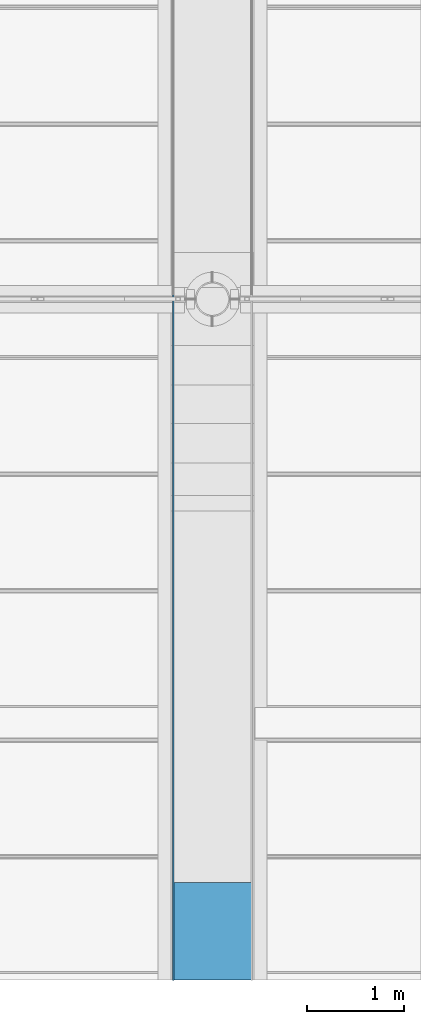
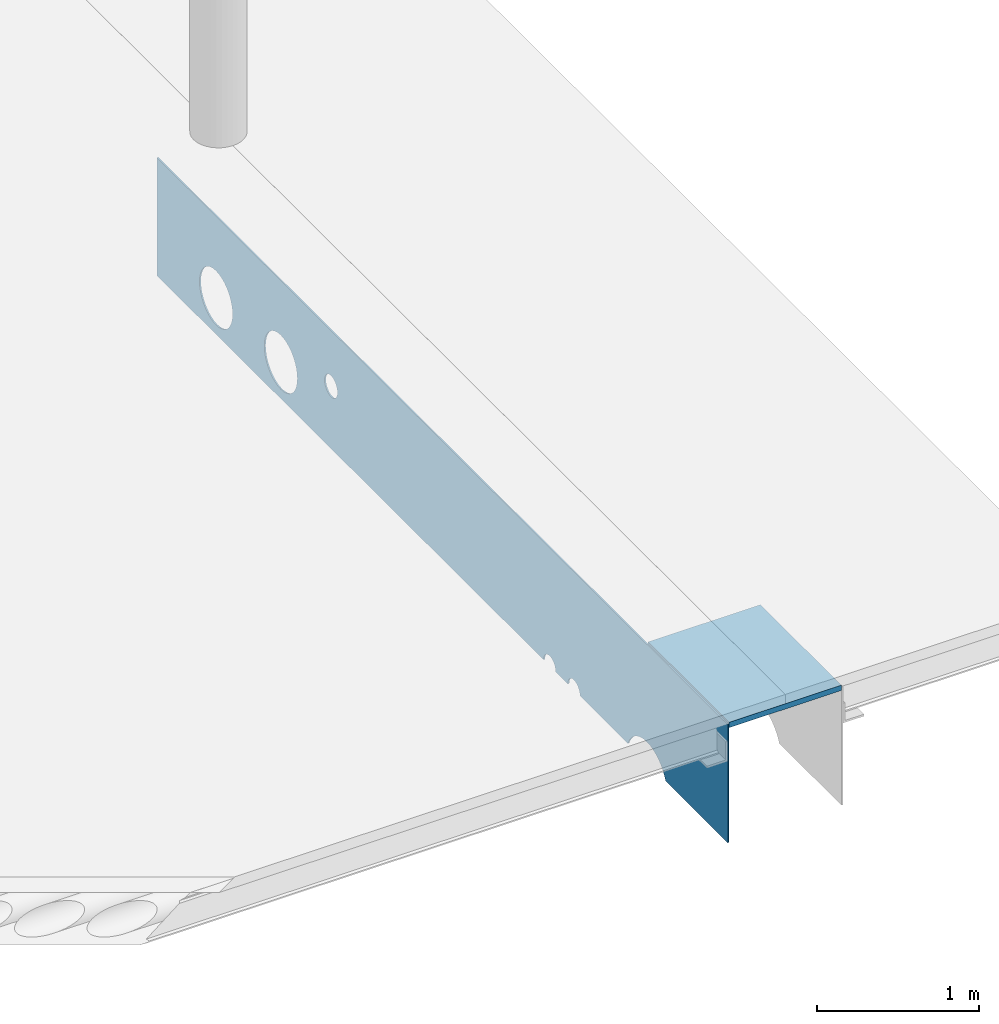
# One storey, part 6 of 21: 2 beams.
"""IFC2X3 building model written with IfcOpenShell, lengths in millimetres."""

import ifcopenshell
import ifcopenshell.guid

model = None  # the IFC model being written
_history = None  # IfcOwnerHistory: only IFC2X3 demands one
_inside = {}  # id of a spatial element -> (the spatial element, [elements in it])
_under = {}  # id of a project, library or spatial element -> (it, [spatial elements below it])
_declared = {}  # id of a project -> (the project, [libraries it declares])
_typed = {}  # id of a type object -> (the type object, [elements of that type])
_made_of = {}  # id of a material, layer set ... -> (it, [elements and type objects made of it])


def new_model(schema):
    """Start an empty IFC model of exactly this schema.

    Asked for "IFC4X3", IfcOpenShell would pick the latest addendum, in which some entities
    have other attributes; the version numbers below select the first issue.
    IFC2X3 requires an IfcOwnerHistory on every rooted entity: one is made here for all.
    """
    global model, _history
    if schema == "IFC4X3":
        model = ifcopenshell.file(schema_version=(4, 3, 0, 0))
    else:
        model = ifcopenshell.file(schema=schema)
    _inside.clear()
    _under.clear()
    _declared.clear()
    _typed.clear()
    _made_of.clear()
    _history = None
    if model.schema == "IFC2X3":
        org = make("IfcOrganization", Name="unknown")
        user = make(
            "IfcPersonAndOrganization",
            ThePerson=make("IfcPerson", FamilyName="unknown"),
            TheOrganization=org,
        )
        app = make(
            "IfcApplication",
            ApplicationDeveloper=org,
            Version="unknown",
            ApplicationFullName="unknown",
            ApplicationIdentifier="unknown",
        )
        _history = make(
            "IfcOwnerHistory",
            OwningUser=user,
            OwningApplication=app,
            ChangeAction="ADDED",
            CreationDate=0,
        )
    return model


def make(cls, **values):
    """One entity of the class cls with the attributes given. An attribute that is None is left unset."""
    return model.create_entity(
        cls, **{name: value for name, value in values.items() if value is not None}
    )


def entity(cls, *values):
    """Any entity or typed value of the class cls, its attributes in the order of the schema. None: left unset."""
    e = model.create_entity(cls)
    for i, value in enumerate(values):
        if value is not None:
            e[i] = value
    return e


def rooted(cls, **values):
    """An entity with a GlobalId (a new one), such as an element, a storey or a relation."""
    return make(cls, GlobalId=ifcopenshell.guid.new(), OwnerHistory=_history, **values)


def si_unit(unit_type, name, prefix=None):
    """IfcSIUnit, for example si_unit("LENGTHUNIT", "METRE", prefix="MILLI")."""
    return make("IfcSIUnit", UnitType=unit_type, Prefix=prefix, Name=name)


def converted_unit(unit_type, name, factor, base, dimensions=None, offset=None):
    """IfcConversionBasedUnit, such as the inch: factor (a typed value) times the base unit."""
    return make(
        "IfcConversionBasedUnit"
        if offset is None
        else "IfcConversionBasedUnitWithOffset",
        ConversionOffset=offset,
        Dimensions=None
        if dimensions is None
        else entity("IfcDimensionalExponents", *dimensions),
        UnitType=unit_type,
        Name=name,
        ConversionFactor=make(
            "IfcMeasureWithUnit", ValueComponent=factor, UnitComponent=base
        ),
    )


def derived_unit(unit_type, elements):
    """IfcDerivedUnit: a product of units, each with its exponent."""
    return make(
        "IfcDerivedUnit",
        Elements=[
            make("IfcDerivedUnitElement", Unit=unit, Exponent=power)
            for unit, power in elements
        ],
        UnitType=unit_type,
    )


def assignment(units):
    """IfcUnitAssignment: the units of a project."""
    return None if units is None else make("IfcUnitAssignment", Units=units)


def point(xyz):
    """IfcCartesianPoint."""
    return None if xyz is None else make("IfcCartesianPoint", Coordinates=xyz)


def direction(xyz):
    """IfcDirection."""
    return None if xyz is None else make("IfcDirection", DirectionRatios=xyz)


def frame(location, z_axis=None, x_axis=None):
    """IfcAxis2Placement3D, a coordinate frame: its origin and axes. An axis left out is left unset."""
    return make(
        "IfcAxis2Placement3D",
        Location=point(location),
        Axis=direction(z_axis),
        RefDirection=direction(x_axis),
    )


def origin_with_axes():
    """The frame at (0, 0, 0) with the z axis (0, 0, 1) and the x axis (1, 0, 0) written out."""
    return frame((0.0, 0.0, 0.0), z_axis=(0.0, 0.0, 1.0), x_axis=(1.0, 0.0, 0.0))


def place(relative_to, where):
    """IfcLocalPlacement: puts the frame where relative to a parent placement (None: the world)."""
    return make(
        "IfcLocalPlacement", PlacementRelTo=relative_to, RelativePlacement=where
    )


def context(
    kind, dimensions, precision=None, world=None, true_north=None, identifier=None
):
    """IfcGeometricRepresentationContext, for example the 3D "Model" context."""
    return make(
        "IfcGeometricRepresentationContext",
        ContextIdentifier=identifier,
        ContextType=kind,
        CoordinateSpaceDimension=dimensions,
        Precision=precision,
        WorldCoordinateSystem=world,
        TrueNorth=true_north,
    )


def subcontext(parent, identifier, kind, view, scale=None):
    """IfcGeometricRepresentationSubContext, for example "Body" below "Model"."""
    return make(
        "IfcGeometricRepresentationSubContext",
        ContextIdentifier=identifier,
        ContextType=kind,
        ParentContext=parent,
        TargetScale=scale,
        TargetView=view,
    )


def project(units=None, contexts=None):
    """IfcProject with its units and contexts."""
    return rooted(
        "IfcProject",
        Name="project",
        RepresentationContexts=contexts,
        UnitsInContext=assignment(units),
    )


def spatial(cls, under=None, at=None, **own):
    """A site, building, storey or space (cls), placed at a placement, below another one or the project."""
    s = rooted(cls, ObjectPlacement=at, **own)
    if under is not None:
        _under.setdefault(under.id(), (under, []))[1].append(s)
    return s


def faces_of(points, faces, orient=None, outer=None):
    """IfcFace entities. A face is a list of loops; a loop is a list of indices into points, from 0.

    orient and outer hold one flag for each loop. By default every Orientation is true, the
    first loop of a face is its IfcFaceOuterBound and the others are IfcFaceBound.
    """
    made = []
    for i, loops in enumerate(faces):
        bounds = []
        for j, loop in enumerate(loops):
            is_outer = j == 0 if outer is None else outer[i][j]
            bounds.append(
                make(
                    "IfcFaceOuterBound" if is_outer else "IfcFaceBound",
                    Bound=make("IfcPolyLoop", Polygon=[points[k] for k in loop]),
                    Orientation=True if orient is None else orient[i][j],
                )
            )
        made.append(make("IfcFace", Bounds=bounds))
    return made


def faceted_brep(points, faces, orient=None, outer=None, voids=None):
    """IfcFacetedBrep: a solid bounded by flat faces; with voids (closed shells), ...WithVoids."""
    shared = [point(p) for p in points]
    hull = make("IfcClosedShell", CfsFaces=faces_of(shared, faces, orient, outer))
    if voids is None:
        return make("IfcFacetedBrep", Outer=hull)
    return make(
        "IfcFacetedBrepWithVoids",
        Outer=hull,
        Voids=[
            make(cls, CfsFaces=faces_of(shared, fs, o, b)) for cls, fs, o, b in voids
        ],
    )


def shape(context_of_items, identifier, shape_type, items):
    """IfcShapeRepresentation: the items that make up one representation, for example the "Body"."""
    return make(
        "IfcShapeRepresentation",
        ContextOfItems=context_of_items,
        RepresentationIdentifier=identifier,
        RepresentationType=shape_type,
        Items=items,
    )


def made_of(thing, what):
    """Note that an element or type object is made of a material, layer set ...; save() writes the relation."""
    if what is not None:
        _made_of.setdefault(what.id(), (what, []))[1].append(thing)
    return thing


def type_object(cls, material=None, **own):
    """A type object (cls), such as IfcWallType, which elements share."""
    return made_of(rooted(cls, **own), material)


def element(
    cls,
    number,
    at=None,
    inside=None,
    cuts=None,
    type_object=None,
    material=None,
    context=None,
    identifier="Body",
    shape_type=None,
    held_by="IfcProductDefinitionShape",
    body=None,
    shapes=None,
    **own,
):
    """One element of the class cls, such as IfcWall. Its Tag is "e" and its number.

    at: its placement. inside: the storey or other place that contains it. cuts: it is an
    opening in that element (IfcRelVoidsElement). A single representation is given by context,
    identifier, shape_type and body (its items); several are given by shapes. held_by: the class
    of the entity that holds the representations. save() writes the other relations.
    """
    e = rooted(cls, Tag="e%d" % number, ObjectPlacement=at, **own)
    if body is not None:
        shapes = [shape(context, identifier, shape_type, body)]
    if shapes is not None:
        e.Representation = make(held_by, Representations=shapes)
    if inside is not None:
        _inside.setdefault(inside.id(), (inside, []))[1].append(e)
    if cuts is not None:
        rooted(
            "IfcRelVoidsElement", RelatingBuildingElement=cuts, RelatedOpeningElement=e
        )
    if type_object is not None:
        _typed.setdefault(type_object.id(), (type_object, []))[1].append(e)
    return made_of(e, material)


def aggregate(whole, parts):
    """IfcRelAggregates: a whole, such as a stair, and the parts it consists of."""
    return rooted("IfcRelAggregates", RelatingObject=whole, RelatedObjects=parts)


def save(model, path):
    """Write the relations noted so far, then the file.

    IfcRelAggregates (storeys below a building ...), IfcRelContainedInSpatialStructure (elements
    in a storey), IfcRelDefinesByType, IfcRelAssociatesMaterial and IfcRelDeclares: one each for
    every whole, place, type object, material and project.
    """
    for whole, parts in _under.values():
        aggregate(whole, parts)
    for where, things in _inside.values():
        rooted(
            "IfcRelContainedInSpatialStructure",
            RelatedElements=things,
            RelatingStructure=where,
        )
    for kind, things in _typed.values():
        rooted("IfcRelDefinesByType", RelatedObjects=things, RelatingType=kind)
    for what, things in _made_of.values():
        rooted("IfcRelAssociatesMaterial", RelatedObjects=things, RelatingMaterial=what)
    for by, libraries in _declared.values():
        rooted("IfcRelDeclares", RelatingContext=by, RelatedDefinitions=libraries)
    model.write(path)


model = new_model("IFC2X3")

# Units and contexts
model_context = context("Model", 3, precision=0.01, world=frame((0.0, 4.29681676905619e-09, 0.0)), true_north=direction((4.01073788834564e-13, 1.0)))
plan_context = context("Plan", 3, precision=0.01, world=frame((0.0, 4.29681676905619e-09, 0.0)), true_north=direction((4.01073788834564e-13, 1.0)))
body_context = subcontext(model_context, "Body", "Model", "MODEL_VIEW")
ifc_project = project(units=[converted_unit("PLANEANGLEUNIT", "DEGREE", entity("IfcPositiveLengthMeasure", 0.0174532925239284), si_unit("PLANEANGLEUNIT", "RADIAN"), dimensions=[0, 0, 0, 0, 0, 0, 0]), si_unit("AREAUNIT", "SQUARE_METRE"), si_unit("LENGTHUNIT", "METRE", prefix="MILLI"), si_unit("MASSUNIT", "GRAM", prefix="KILO"), si_unit("POWERUNIT", "WATT"), si_unit("PRESSUREUNIT", "PASCAL", prefix="KILO"), si_unit("FORCEUNIT", "NEWTON", prefix="KILO"), si_unit("ELECTRICVOLTAGEUNIT", "VOLT"), si_unit("ELECTRICCURRENTUNIT", "AMPERE"), si_unit("THERMODYNAMICTEMPERATUREUNIT", "DEGREE_CELSIUS"), si_unit("TIMEUNIT", "SECOND"), si_unit("VOLUMEUNIT", "CUBIC_METRE"), derived_unit("LINEARVELOCITYUNIT", [(si_unit("LENGTHUNIT", "METRE"), 1), (si_unit("TIMEUNIT", "SECOND"), -1)]), derived_unit("VOLUMETRICFLOWRATEUNIT", [(si_unit("VOLUMEUNIT", "CUBIC_METRE"), 1), (si_unit("TIMEUNIT", "SECOND"), -1)]), derived_unit("THERMALTRANSMITTANCEUNIT", [(si_unit("POWERUNIT", "WATT"), 1), (si_unit("THERMODYNAMICTEMPERATUREUNIT", "KELVIN"), -1), (si_unit("AREAUNIT", "SQUARE_METRE"), -1)]), derived_unit("SOUNDPRESSUREUNIT", [(si_unit("PRESSUREUNIT", "PASCAL"), 1)])], contexts=[model_context, plan_context])

# Site, building, storey
site_placement = place(None, frame((0.0, -4.29681676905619e-09, 0.0), z_axis=(0.0, 0.0, 1.0), x_axis=(1.0, 0.0, 0.0)))
site = spatial("IfcSite", under=ifc_project, at=site_placement, Name="Gardermoen", CompositionType="ELEMENT")
building_placement = place(site_placement, frame((0.0, 4.29681676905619e-09, 0.0), z_axis=(0.0, 0.0, 1.0), x_axis=(1.0, 0.0, 0.0)))
building = spatial("IfcBuilding", under=site, at=building_placement, Name="TS", CompositionType="ELEMENT")
storey_placement = place(building_placement, origin_with_axes())
storey = spatial("IfcBuildingStorey", under=building, at=storey_placement, Name="F", CompositionType="ELEMENT", Elevation=0.0)

# Beams
beam_type_1 = type_object("IfcBeamType", Name="800*40", PredefinedType="NOTDEFINED")
beam_1_placement = place(storey_placement, frame((727000.0, 432150.0, 210785.0), z_axis=(-1.0, 0.0, 0.0), x_axis=(0.0, 1.0, 0.0)))
element("IfcBeam", 1, at=beam_1_placement, inside=storey, type_object=beam_type_1, Name="STÅLBJELKE", ObjectType="800*40", context=body_context, shape_type="Brep", body=[
    faceted_brep([(2349.00924500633, -20.0, -400.0), (2349.00924500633, -20.0, 400.0), (3350.00000000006, -20.0, 400.0), (3350.00000000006, -20.0, -400.0), (2349.00924500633, 20.0, 400.0), (3350.00000000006, 20.0, 400.0), (2349.00924500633, 20.0, -400.0), (3350.00000000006, 20.0, -400.0)], [[[0, 1, 2, 3]], [[1, 4, 5, 2]], [[6, 0, 3, 7]], [[5, 7, 3, 2]], [[4, 6, 7, 5]], [[6, 4, 1, 0]]], orient=[[False], [False], [False], [False], [False], [False]]),
])
beam_type_2 = type_object("IfcBeamType", Name="1470*10", PredefinedType="NOTDEFINED")
beam_2_placement = place(storey_placement, frame((726595.0, 434100.0, 210055.0), z_axis=(0.0, 0.0, 1.0), x_axis=(0.0, 1.0, 0.0)))
element("IfcBeam", 2, at=beam_2_placement, inside=storey, type_object=beam_type_2, Name="STÅLBJELKE", ObjectType="1470*10", context=body_context, shape_type="Brep", body=[
    faceted_brep([(5369.28203230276, -5.0, 275.0), (5369.28203230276, 5.0, 275.0), (5377.2740661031, 5.0, 294.294476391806), (5377.2740661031, -5.0, 294.294476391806), (5380.0, 5.0, 315.0), (5380.0, -5.0, 315.0), (5377.2740661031, 5.0, 335.705523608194), (5377.2740661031, -5.0, 335.705523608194), (5369.28203230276, 5.0, 355.0), (5369.28203230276, -5.0, 355.0), (5356.5685424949, 5.0, 371.568542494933), (5356.5685424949, -5.0, 371.568542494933), (5340.0, 5.0, 384.282032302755), (5340.0, -5.0, 384.282032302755), (5320.70552360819, 5.0, 392.274066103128), (5320.70552360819, -5.0, 392.274066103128), (5300.0, 5.0, 395.0), (5300.0, -5.0, 395.0), (5279.29447639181, 5.0, 392.274066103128), (5279.29447639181, -5.0, 392.274066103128), (5260.0, 5.0, 384.282032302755), (5260.0, -5.0, 384.282032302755), (5243.4314575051, 5.0, 371.568542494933), (5243.4314575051, -5.0, 371.568542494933), (5230.71796769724, 5.0, 355.0), (5230.71796769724, -5.0, 355.0), (5222.7259338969, 5.0, 335.705523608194), (5222.7259338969, -5.0, 335.705523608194), (5220.0, 5.0, 315.0), (5220.0, -5.0, 315.0), (5222.7259338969, 5.0, 294.294476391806), (5222.7259338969, -5.0, 294.294476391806), (5230.71796769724, 5.0, 275.0), (5230.71796769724, -5.0, 275.0), (5243.4314575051, 5.0, 258.431457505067), (5243.4314575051, -5.0, 258.431457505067), (5260.0, 5.0, 245.717967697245), (5260.0, -5.0, 245.717967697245), (5279.29447639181, 5.0, 237.725933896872), (5279.29447639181, -5.0, 237.725933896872), (5300.0, 5.0, 235.0), (5300.0, -5.0, 235.0), (5320.70552360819, 5.0, 237.725933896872), (5320.70552360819, -5.0, 237.725933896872), (5340.0, 5.0, 245.717967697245), (5340.0, -5.0, 245.717967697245), (5356.5685424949, 5.0, 258.431457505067), (5356.5685424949, -5.0, 258.431457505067), (399.007988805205, -5.0, 735.0), (399.007988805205, 5.0, 735.0), (7450.0, 5.0, 735.0), (7450.0, -5.0, 735.0), (7450.0, 5.0, -155.0), (7450.0, -5.0, -155.0), (1166.26219191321, 5.0, -155.0), (1166.26219191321, -5.0, -155.0), (1172.79333633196, -5.0, -139.23242256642), (1172.79333633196, 5.0, -139.23242256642), (1193.70066643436, -5.0, -105.114760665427), (1193.70066643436, 5.0, -105.114760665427), (1219.68777079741, -5.0, -74.6877707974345), (1219.68777079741, 5.0, -74.6877707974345), (1250.1147606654, -5.0, -48.7006664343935), (1250.1147606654, 5.0, -48.7006664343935), (1284.23242256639, -5.0, -27.7933363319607), (1284.23242256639, 5.0, -27.7933363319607), (1321.20066643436, -5.0, -12.4805883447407), (1321.20066643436, 5.0, -12.4805883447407), (1360.10921141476, -5.0, -3.13947314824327), (1360.10921141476, 5.0, -3.13947314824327), (1400.0, -5.0, 0.0), (1400.0, 5.0, 0.0), (1439.89078858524, -5.0, -3.13947314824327), (1439.89078858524, 5.0, -3.13947314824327), (1478.79933356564, -5.0, -12.4805883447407), (1478.79933356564, 5.0, -12.4805883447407), (1515.76757743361, -5.0, -27.7933363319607), (1515.76757743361, 5.0, -27.7933363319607), (1549.8852393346, -5.0, -48.7006664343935), (1549.8852393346, 5.0, -48.7006664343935), (1580.31222920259, -5.0, -74.6877707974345), (1580.31222920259, 5.0, -74.6877707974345), (1606.29933356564, -5.0, -105.114760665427), (1606.29933356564, 5.0, -105.114760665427), (1627.20666366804, -5.0, -139.23242256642), (1627.20666366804, 5.0, -139.23242256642), (1633.73780808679, -5.0, -155.0), (1633.73780808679, 5.0, -155.0), (2375.0, -5.0, -155.0), (2375.0, 5.0, -155.0), (2372.44443697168, 5.0, -135.588571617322), (2372.44443697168, -5.0, -135.588571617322), (2227.55556302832, -5.0, -135.588571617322), (2227.55556302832, 5.0, -135.588571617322), (2225.0, 5.0, -155.0), (2225.0, -5.0, -155.0), (2235.04809471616, -5.0, -117.5), (2235.04809471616, 5.0, -117.5), (2246.966991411, -5.0, -101.966991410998), (2246.966991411, 5.0, -101.966991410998), (2262.5, -5.0, -90.0480947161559), (2262.5, 5.0, -90.0480947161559), (2280.58857161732, -5.0, -82.5555630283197), (2280.58857161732, 5.0, -82.5555630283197), (2300.0, -5.0, -80.0), (2300.0, 5.0, -80.0), (2319.41142838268, -5.0, -82.5555630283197), (2319.41142838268, 5.0, -82.5555630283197), (2337.5, -5.0, -90.0480947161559), (2337.5, 5.0, -90.0480947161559), (2353.033008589, -5.0, -101.966991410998), (2353.033008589, 5.0, -101.966991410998), (2364.95190528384, -5.0, -117.5), (2364.95190528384, 5.0, -117.5), (2675.0, -5.0, -155.0), (2675.0, 5.0, -155.0), (2672.44443697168, 5.0, -135.588571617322), (2672.44443697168, -5.0, -135.588571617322), (2527.55556302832, -5.0, -135.588571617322), (2527.55556302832, 5.0, -135.588571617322), (2525.0, 5.0, -155.0), (2525.0, -5.0, -155.0), (2535.04809471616, -5.0, -117.5), (2535.04809471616, 5.0, -117.5), (2546.966991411, -5.0, -101.966991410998), (2546.966991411, 5.0, -101.966991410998), (2562.5, -5.0, -90.0480947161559), (2562.5, 5.0, -90.0480947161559), (2580.58857161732, -5.0, -82.5555630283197), (2580.58857161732, 5.0, -82.5555630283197), (2600.0, -5.0, -80.0), (2600.0, 5.0, -80.0), (2619.41142838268, -5.0, -82.5555630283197), (2619.41142838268, 5.0, -82.5555630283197), (2637.5, -5.0, -90.0480947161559), (2637.5, 5.0, -90.0480947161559), (2653.033008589, -5.0, -101.966991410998), (2653.033008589, 5.0, -101.966991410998), (2664.95190528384, -5.0, -117.5), (2664.95190528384, 5.0, -117.5), (6124.0, -5.0, 120.0), (6124.0, 5.0, 120.0), (6120.90078161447, 5.0, 155.424228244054), (6120.90078161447, -5.0, 155.424228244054), (6120.90078161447, -5.0, 84.5757717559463), (6120.90078161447, 5.0, 84.5757717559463), (6111.69729464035, -5.0, 50.2278907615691), (6111.69729464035, 5.0, 50.2278907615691), (6096.66918237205, -5.0, 18.0), (6096.66918237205, 5.0, 18.0), (6076.27306639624, -5.0, -11.1286723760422), (6076.27306639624, 5.0, -11.1286723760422), (6051.12867237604, -5.0, -36.273066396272), (6051.12867237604, 5.0, -36.273066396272), (6022.0, -5.0, -56.6691823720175), (6022.0, 5.0, -56.6691823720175), (5989.77210923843, -5.0, -71.6972946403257), (5989.77210923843, 5.0, -71.6972946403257), (5955.42422824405, -5.0, -80.9007816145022), (5955.42422824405, 5.0, -80.9007816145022), (5920.0, -5.0, -84.0), (5920.0, 5.0, -84.0), (5884.57577175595, -5.0, -80.9007816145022), (5884.57577175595, 5.0, -80.9007816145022), (5850.22789076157, -5.0, -71.6972946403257), (5850.22789076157, 5.0, -71.6972946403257), (5818.0, -5.0, -56.6691823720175), (5818.0, 5.0, -56.6691823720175), (5788.87132762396, -5.0, -36.273066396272), (5788.87132762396, 5.0, -36.273066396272), (5763.72693360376, -5.0, -11.1286723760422), (5763.72693360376, 5.0, -11.1286723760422), (5743.33081762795, -5.0, 18.0), (5743.33081762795, 5.0, 18.0), (5728.30270535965, -5.0, 50.2278907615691), (5728.30270535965, 5.0, 50.2278907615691), (5719.09921838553, -5.0, 84.5757717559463), (5719.09921838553, 5.0, 84.5757717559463), (5716.0, -5.0, 120.0), (5716.0, 5.0, 120.0), (5719.09921838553, -5.0, 155.424228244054), (5719.09921838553, 5.0, 155.424228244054), (5728.30270535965, -5.0, 189.772109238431), (5728.30270535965, 5.0, 189.772109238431), (5743.33081762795, -5.0, 222.0), (5743.33081762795, 5.0, 222.0), (5763.72693360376, -5.0, 251.128672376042), (5763.72693360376, 5.0, 251.128672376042), (5788.87132762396, -5.0, 276.273066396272), (5788.87132762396, 5.0, 276.273066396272), (5818.0, -5.0, 296.669182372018), (5818.0, 5.0, 296.669182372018), (5850.22789076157, -5.0, 311.697294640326), (5850.22789076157, 5.0, 311.697294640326), (5884.57577175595, -5.0, 320.900781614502), (5884.57577175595, 5.0, 320.900781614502), (5920.0, -5.0, 324.0), (5920.0, 5.0, 324.0), (5955.42422824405, -5.0, 320.900781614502), (5955.42422824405, 5.0, 320.900781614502), (5989.77210923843, -5.0, 311.697294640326), (5989.77210923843, 5.0, 311.697294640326), (6022.0, -5.0, 296.669182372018), (6022.0, 5.0, 296.669182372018), (6051.12867237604, -5.0, 276.273066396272), (6051.12867237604, 5.0, 276.273066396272), (6076.27306639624, -5.0, 251.128672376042), (6076.27306639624, 5.0, 251.128672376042), (6096.66918237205, -5.0, 222.0), (6096.66918237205, 5.0, 222.0), (6111.69729464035, -5.0, 189.772109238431), (6111.69729464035, 5.0, 189.772109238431), (399.007988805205, -5.0, -155.0), (6920.90078161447, -5.0, 84.5757717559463), (6924.0, -5.0, 120.0), (6920.90078161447, -5.0, 155.424228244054), (6911.69729464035, -5.0, 189.772109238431), (6896.66918237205, -5.0, 222.0), (6876.27306639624, -5.0, 251.128672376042), (6851.12867237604, -5.0, 276.273066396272), (6822.0, -5.0, 296.669182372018), (6789.77210923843, -5.0, 311.697294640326), (6755.42422824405, -5.0, 320.900781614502), (6720.0, -5.0, 324.0), (6684.57577175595, -5.0, 320.900781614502), (6650.22789076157, -5.0, 311.697294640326), (6618.0, -5.0, 296.669182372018), (6588.87132762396, -5.0, 276.273066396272), (6563.72693360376, -5.0, 251.128672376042), (6543.33081762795, -5.0, 222.0), (6528.30270535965, -5.0, 189.772109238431), (6519.09921838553, -5.0, 155.424228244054), (6516.0, -5.0, 120.0), (6519.09921838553, -5.0, 84.5757717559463), (6528.30270535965, -5.0, 50.2278907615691), (6543.33081762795, -5.0, 18.0), (6563.72693360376, -5.0, -11.1286723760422), (6588.87132762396, -5.0, -36.273066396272), (6618.0, -5.0, -56.6691823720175), (6650.22789076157, -5.0, -71.6972946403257), (6684.57577175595, -5.0, -80.9007816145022), (6720.0, -5.0, -84.0), (6755.42422824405, -5.0, -80.9007816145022), (6789.77210923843, -5.0, -71.6972946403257), (6822.0, -5.0, -56.6691823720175), (6851.12867237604, -5.0, -36.273066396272), (6876.27306639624, -5.0, -11.1286723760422), (6896.66918237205, -5.0, 18.0), (6911.69729464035, -5.0, 50.2278907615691), (6920.90078161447, 5.0, 155.424228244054), (6911.69729464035, 5.0, 189.772109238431), (6924.0, 5.0, 120.0), (6920.90078161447, 5.0, 84.5757717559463), (6911.69729464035, 5.0, 50.2278907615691), (6896.66918237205, 5.0, 18.0), (6876.27306639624, 5.0, -11.1286723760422), (6851.12867237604, 5.0, -36.273066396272), (6822.0, 5.0, -56.6691823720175), (6789.77210923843, 5.0, -71.6972946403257), (6755.42422824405, 5.0, -80.9007816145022), (6720.0, 5.0, -84.0), (6684.57577175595, 5.0, -80.9007816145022), (6650.22789076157, 5.0, -71.6972946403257), (6618.0, 5.0, -56.6691823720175), (6588.87132762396, 5.0, -36.273066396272), (6563.72693360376, 5.0, -11.1286723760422), (6543.33081762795, 5.0, 18.0), (6528.30270535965, 5.0, 50.2278907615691), (6519.09921838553, 5.0, 84.5757717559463), (6516.0, 5.0, 120.0), (6519.09921838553, 5.0, 155.424228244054), (6528.30270535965, 5.0, 189.772109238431), (6543.33081762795, 5.0, 222.0), (6563.72693360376, 5.0, 251.128672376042), (6588.87132762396, 5.0, 276.273066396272), (6618.0, 5.0, 296.669182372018), (6650.22789076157, 5.0, 311.697294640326), (6684.57577175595, 5.0, 320.900781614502), (6720.0, 5.0, 324.0), (6755.42422824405, 5.0, 320.900781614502), (6789.77210923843, 5.0, 311.697294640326), (6822.0, 5.0, 296.669182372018), (6851.12867237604, 5.0, 276.273066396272), (6876.27306639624, 5.0, 251.128672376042), (6896.66918237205, 5.0, 222.0), (399.007988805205, 5.0, -155.0)], [[[0, 1, 2, 3]], [[3, 2, 4, 5]], [[5, 4, 6, 7]], [[7, 6, 8, 9]], [[9, 8, 10, 11]], [[11, 10, 12, 13]], [[13, 12, 14, 15]], [[15, 14, 16, 17]], [[17, 16, 18, 19]], [[19, 18, 20, 21]], [[21, 20, 22, 23]], [[23, 22, 24, 25]], [[25, 24, 26, 27]], [[27, 26, 28, 29]], [[29, 28, 30, 31]], [[31, 30, 32, 33]], [[33, 32, 34, 35]], [[35, 34, 36, 37]], [[37, 36, 38, 39]], [[39, 38, 40, 41]], [[41, 40, 42, 43]], [[43, 42, 44, 45]], [[45, 44, 46, 47]], [[47, 46, 1, 0]], [[48, 49, 50, 51]], [[52, 53, 51, 50]], [[54, 55, 56, 57]], [[58, 59, 57, 56]], [[60, 61, 59, 58]], [[62, 63, 61, 60]], [[64, 65, 63, 62]], [[66, 67, 65, 64]], [[68, 69, 67, 66]], [[70, 71, 69, 68]], [[72, 73, 71, 70]], [[74, 75, 73, 72]], [[76, 77, 75, 74]], [[78, 79, 77, 76]], [[80, 81, 79, 78]], [[82, 83, 81, 80]], [[84, 85, 83, 82]], [[86, 87, 85, 84]], [[88, 89, 90, 91]], [[92, 93, 94, 95]], [[96, 97, 93, 92]], [[98, 99, 97, 96]], [[100, 101, 99, 98]], [[102, 103, 101, 100]], [[104, 105, 103, 102]], [[106, 107, 105, 104]], [[108, 109, 107, 106]], [[110, 111, 109, 108]], [[112, 113, 111, 110]], [[91, 90, 113, 112]], [[114, 115, 116, 117]], [[118, 119, 120, 121]], [[122, 123, 119, 118]], [[124, 125, 123, 122]], [[126, 127, 125, 124]], [[128, 129, 127, 126]], [[130, 131, 129, 128]], [[132, 133, 131, 130]], [[134, 135, 133, 132]], [[136, 137, 135, 134]], [[138, 139, 137, 136]], [[117, 116, 139, 138]], [[140, 141, 142, 143]], [[144, 145, 141, 140]], [[146, 147, 145, 144]], [[148, 149, 147, 146]], [[150, 151, 149, 148]], [[152, 153, 151, 150]], [[154, 155, 153, 152]], [[156, 157, 155, 154]], [[158, 159, 157, 156]], [[160, 161, 159, 158]], [[162, 163, 161, 160]], [[164, 165, 163, 162]], [[166, 167, 165, 164]], [[168, 169, 167, 166]], [[170, 171, 169, 168]], [[172, 173, 171, 170]], [[174, 175, 173, 172]], [[176, 177, 175, 174]], [[178, 179, 177, 176]], [[180, 181, 179, 178]], [[182, 183, 181, 180]], [[184, 185, 183, 182]], [[186, 187, 185, 184]], [[188, 189, 187, 186]], [[190, 191, 189, 188]], [[192, 193, 191, 190]], [[194, 195, 193, 192]], [[196, 197, 195, 194]], [[198, 199, 197, 196]], [[200, 201, 199, 198]], [[202, 203, 201, 200]], [[204, 205, 203, 202]], [[206, 207, 205, 204]], [[208, 209, 207, 206]], [[210, 211, 209, 208]], [[143, 142, 211, 210]], [[53, 114, 117, 138, 136, 134, 132, 130, 128, 126, 124, 122, 118, 121, 88, 91, 112, 110, 108, 106, 104, 102, 100, 98, 96, 92, 95, 86, 84, 82, 80, 78, 76, 74, 72, 70, 68, 66, 64, 62, 60, 58, 56, 55, 212, 48, 51], [3, 5, 7, 9, 11, 13, 15, 17, 19, 21, 23, 25, 27, 29, 31, 33, 35, 37, 39, 41, 43, 45, 47, 0], [213, 214, 215, 216, 217, 218, 219, 220, 221, 222, 223, 224, 225, 226, 227, 228, 229, 230, 231, 232, 233, 234, 235, 236, 237, 238, 239, 240, 241, 242, 243, 244, 245, 246, 247, 248], [144, 140, 143, 210, 208, 206, 204, 202, 200, 198, 196, 194, 192, 190, 188, 186, 184, 182, 180, 178, 176, 174, 172, 170, 168, 166, 164, 162, 160, 158, 156, 154, 152, 150, 148, 146]], [[215, 249, 250, 216]], [[214, 251, 249, 215]], [[213, 252, 251, 214]], [[248, 253, 252, 213]], [[247, 254, 253, 248]], [[246, 255, 254, 247]], [[245, 256, 255, 246]], [[244, 257, 256, 245]], [[243, 258, 257, 244]], [[242, 259, 258, 243]], [[241, 260, 259, 242]], [[240, 261, 260, 241]], [[239, 262, 261, 240]], [[238, 263, 262, 239]], [[237, 264, 263, 238]], [[236, 265, 264, 237]], [[235, 266, 265, 236]], [[234, 267, 266, 235]], [[233, 268, 267, 234]], [[232, 269, 268, 233]], [[231, 270, 269, 232]], [[230, 271, 270, 231]], [[229, 272, 271, 230]], [[228, 273, 272, 229]], [[227, 274, 273, 228]], [[226, 275, 274, 227]], [[225, 276, 275, 226]], [[224, 277, 276, 225]], [[223, 278, 277, 224]], [[222, 279, 278, 223]], [[221, 280, 279, 222]], [[220, 281, 280, 221]], [[219, 282, 281, 220]], [[218, 283, 282, 219]], [[217, 284, 283, 218]], [[216, 250, 284, 217]], [[49, 285, 54, 57, 59, 61, 63, 65, 67, 69, 71, 73, 75, 77, 79, 81, 83, 85, 87, 94, 93, 97, 99, 101, 103, 105, 107, 109, 111, 113, 90, 89, 120, 119, 123, 125, 127, 129, 131, 133, 135, 137, 139, 116, 115, 52, 50], [6, 4, 2, 1, 46, 44, 42, 40, 38, 36, 34, 32, 30, 28, 26, 24, 22, 20, 18, 16, 14, 12, 10, 8], [249, 251, 252, 253, 254, 255, 256, 257, 258, 259, 260, 261, 262, 263, 264, 265, 266, 267, 268, 269, 270, 271, 272, 273, 274, 275, 276, 277, 278, 279, 280, 281, 282, 283, 284, 250], [142, 141, 145, 147, 149, 151, 153, 155, 157, 159, 161, 163, 165, 167, 169, 171, 173, 175, 177, 179, 181, 183, 185, 187, 189, 191, 193, 195, 197, 199, 201, 203, 205, 207, 209, 211]], [[285, 49, 48, 212]], [[212, 55, 54, 285]], [[115, 114, 53, 52]], [[95, 94, 87, 86]], [[121, 120, 89, 88]]], orient=[[False], [False], [False], [False], [False], [False], [False], [False], [False], [False], [False], [False], [False], [False], [False], [False], [False], [False], [False], [False], [False], [False], [False], [False], [False], [False], [False], [False], [False], [False], [False], [False], [False], [False], [False], [False], [False], [False], [False], [False], [False], [False], [False], [False], [False], [False], [False], [False], [False], [False], [False], [False], [False], [False], [False], [False], [False], [False], [False], [False], [False], [False], [False], [False], [False], [False], [False], [False], [False], [False], [False], [False], [False], [False], [False], [False], [False], [False], [False], [False], [False], [False], [False], [False], [False], [False], [False], [False], [False], [False], [False], [False], [False], [False], [False], [False], [False], [False], [False], [False], [False], [False], [False, False, False, False], [False], [False], [False], [False], [False], [False], [False], [False], [False], [False], [False], [False], [False], [False], [False], [False], [False], [False], [False], [False], [False], [False], [False], [False], [False], [False], [False], [False], [False], [False], [False], [False], [False], [False], [False], [False], [False, False, False, False], [False], [False], [False], [False], [False]]),
])

save(model, "model.ifc")
